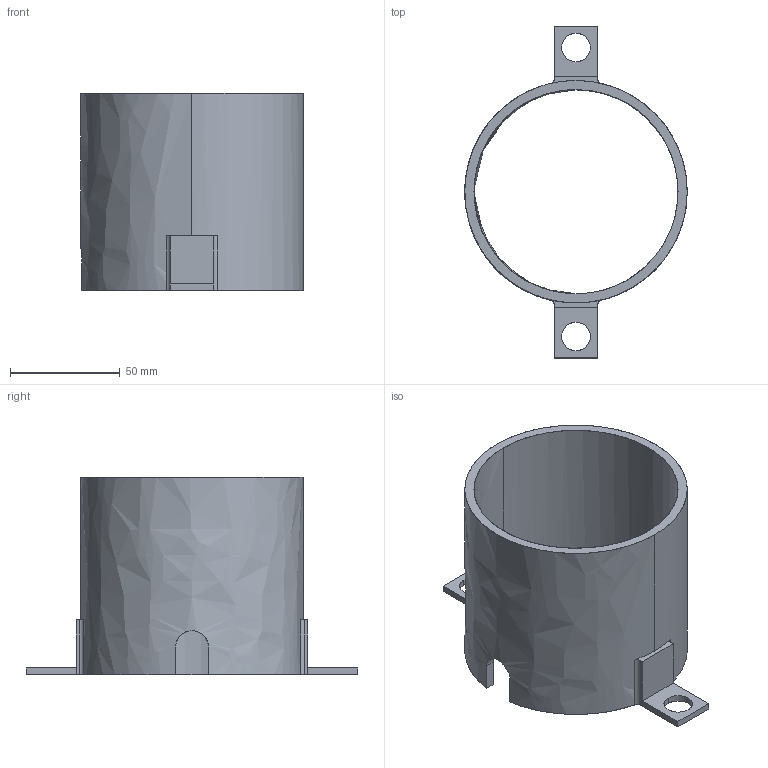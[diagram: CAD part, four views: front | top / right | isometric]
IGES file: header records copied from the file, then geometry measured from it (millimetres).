
Global section: file name: E:\UnigraphicsGraphicData\MISUMI_PRESS-PARTS\IGES\3d_ph70-90-r_07058_r00.igs; native system: NX V5.0; preprocessor: UGS NX IGES V5.0; author: MISUMI; date: 20110105.162244; units: millimetre
Bounding box: 101.6 x 151.6 x 90 mm (x, y, z)
Surface area: 62067 mm2 (no closed solid volume)
Topology: 0 solids, 0 shells, 41 faces, 290 edges, 290 vertices
Faces by surface type: bspline 41
